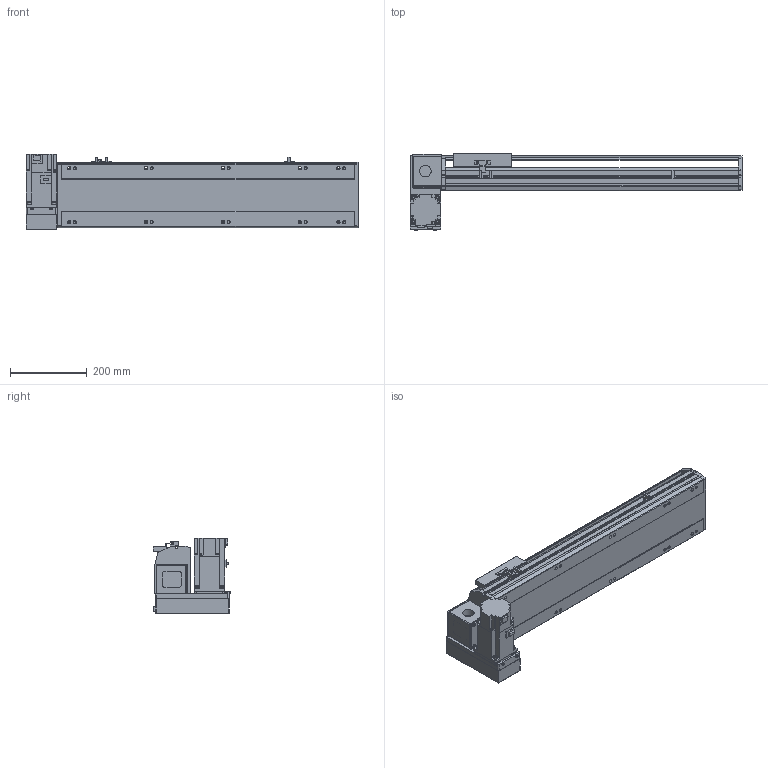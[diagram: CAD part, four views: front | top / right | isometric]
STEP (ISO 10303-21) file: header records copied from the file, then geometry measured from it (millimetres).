
FILE_DESCRIPTION( ( 'STEP AP214' ), '1' );
FILE_NAME( 'x:/temp/worker_3/temp/exporttempdir_5412_5_dS7GW/format_0/PBS170-P40-S500-LD-T75-C1-N(0).stp', '2022-06-07T07:50:42', ( 'License CC BY-ND 4.0' ), ( 'CADENAS' ), ' ', 'PARTsolutions', ' ' );
FILE_SCHEMA( ( 'AUTOMOTIVE_DESIGN { 1 0 10303 214 1 1 1 1 }' ) );
Length unit declared in the file: millimetre
Products named in the file (7): PBS170-P40-S500-LD-T75-C1-N(0); _PBS170-S500()_body; _PBS170T-LD_motors; _T75-p1; _PBS170_sliser; _PBS170_plant; _PBS170_sensor
Assembly tree (8 placements, depth 2):
  PBS170-P40-S500-LD-T75-C1-N(0)
    _PBS170-S500()_body
    _PBS170T-LD_motors
    _T75-p1
    _PBS170_sliser
    _PBS170_plant
    _PBS170_sensor  x3
Bounding box: 863 x 201 x 197.3 mm (x, y, z)
Volume: 7426693.8 mm3; surface area: 1010761.2 mm2
Topology: 8 solids, 8 shells, 1034 faces, 2755 edges, 1796 vertices
Faces by surface type: plane 669, cylinder 315, cone 40, sphere 8, torus 2
Full cylindrical faces by diameter (mm): 3.242 x4, 4 x2, 4.4 x4, 4.5 x6, 4.917 x4, 6 x9, 6.647 x18, 7 x2, 7.5 x4, 8 x8, 8.5 x10, 10 x4, 10.5 x10, 11 x2, 30 x2, 40 x1, 70 x1
Entity records: 37814 total; most frequent: CARTESIAN_POINT 5717, DIRECTION 5090, ORIENTED_EDGE 4848, EDGE_CURVE 2424, AXIS2_PLACEMENT_3D 1747, VERTEX_POINT 1658, LINE 1596, VECTOR 1596
